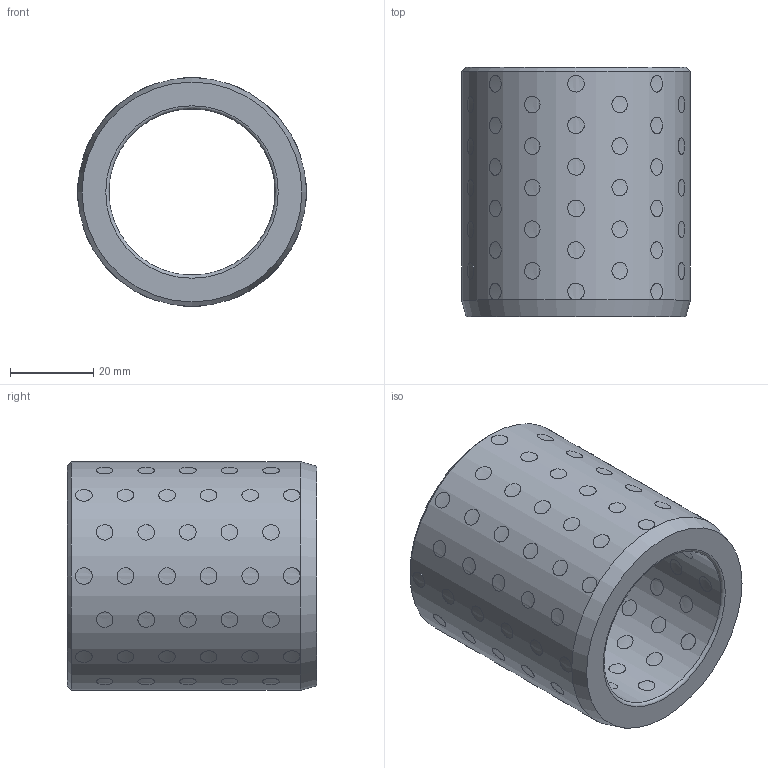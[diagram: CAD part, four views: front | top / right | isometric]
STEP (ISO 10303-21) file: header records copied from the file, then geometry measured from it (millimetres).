
FILE_DESCRIPTION( ( 'STEP AP203' ), '1' );
FILE_NAME( 'D:/Cuma/18 03 2010/D30.04/D30.04_406055.step', '2003-01-24T22:55:44', ( ' ' ), ( ' ' ), 'XStep 1.0', ' ', ' ' );
FILE_SCHEMA( ( 'CONFIG_CONTROL_DESIGN' ) );
Length unit declared in the file: metre
Products named in the file (97): 1; 2; 3; 4; 5; 6; 7; 8; 9; 10; 11; 12; 13; 14; 15; 16; 17; 18; 19; 20; 21; 22; 23; 24; 25; 26; 27; 28; 29; 30; 31; 32; 33; 34; 35; 36; 37; 38; 39; 40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
Bounding box: 55 x 60 x 55 mm (x, y, z)
Volume: 75725.9 mm3; surface area: 31270.6 mm2
Topology: 97 solids, 97 shells, 296 faces, 302 edges, 200 vertices
Faces by surface type: cylinder 290, torus 2, plane 2, cone 2
Full cylindrical faces by diameter (mm): 4 x96, 40 x1, 55 x1
Entity records: 19029 total; most frequent: CARTESIAN_POINT 11161, DIRECTION 802, CC_DESIGN_PERSON_AND_ORGANIZATION_ASSIGNMENT 485, AXIS2_PLACEMENT_3D 401, EDGE_LOOP 400, ORIENTED_EDGE 400, FACE_OUTER_BOUND 396, PERSON_AND_ORGANIZATION_ROLE 388
